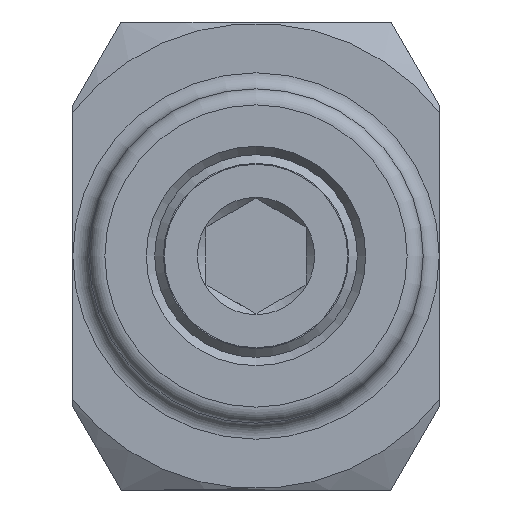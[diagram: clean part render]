
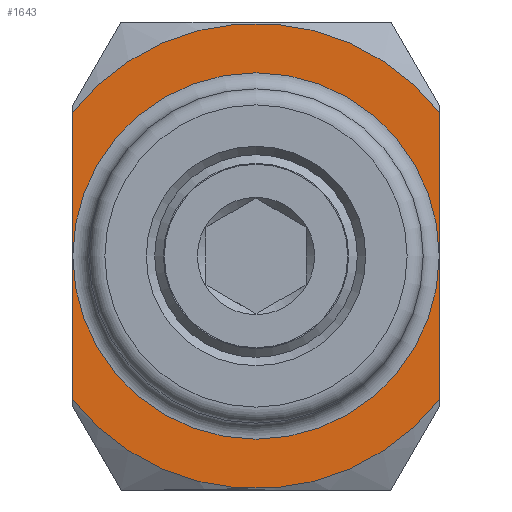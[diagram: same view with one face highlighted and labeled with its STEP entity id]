
A CAD part, front view. The second image highlights one B-rep face of the part: STEP entity #1643.
In plain terms, the highlighted planar face has unit normal (0, -1, 0).
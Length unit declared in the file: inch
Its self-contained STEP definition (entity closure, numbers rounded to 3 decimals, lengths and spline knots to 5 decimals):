
#83=PLANE('',#1837);
#127=FACE_BOUND('',#301,.T.);
#202=FACE_OUTER_BOUND('',#300,.T.);
#300=EDGE_LOOP('',(#1225,#1226,#1227,#1228));
#301=EDGE_LOOP('',(#1229,#1230));
#400=LINE('',#2716,#485);
#401=LINE('',#2720,#486);
#485=VECTOR('',#2159,0.3937);
#486=VECTOR('',#2162,0.3937);
#593=CIRCLE('',#1834,0.3425);
#595=CIRCLE('',#1836,0.3425);
#596=CIRCLE('',#1838,0.435);
#597=CIRCLE('',#1839,0.435);
#719=VERTEX_POINT('',#2708);
#720=VERTEX_POINT('',#2709);
#721=VERTEX_POINT('',#2714);
#722=VERTEX_POINT('',#2715);
#723=VERTEX_POINT('',#2717);
#724=VERTEX_POINT('',#2719);
#912=EDGE_CURVE('',#719,#720,#593,.T.);
#914=EDGE_CURVE('',#720,#719,#595,.T.);
#915=EDGE_CURVE('',#721,#722,#400,.T.);
#916=EDGE_CURVE('',#723,#722,#596,.T.);
#917=EDGE_CURVE('',#723,#724,#401,.T.);
#918=EDGE_CURVE('',#721,#724,#597,.T.);
#1225=ORIENTED_EDGE('',*,*,#915,.T.);
#1226=ORIENTED_EDGE('',*,*,#916,.F.);
#1227=ORIENTED_EDGE('',*,*,#917,.T.);
#1228=ORIENTED_EDGE('',*,*,#918,.F.);
#1229=ORIENTED_EDGE('',*,*,#912,.F.);
#1230=ORIENTED_EDGE('',*,*,#914,.F.);
#1643=ADVANCED_FACE('',(#202,#127),#83,.T.);
#1834=AXIS2_PLACEMENT_3D('',#2710,#2151,#2152);
#1836=AXIS2_PLACEMENT_3D('',#2712,#2155,#2156);
#1837=AXIS2_PLACEMENT_3D('',#2713,#2157,#2158);
#1838=AXIS2_PLACEMENT_3D('',#2718,#2160,#2161);
#1839=AXIS2_PLACEMENT_3D('',#2721,#2163,#2164);
#2151=DIRECTION('center_axis',(0.,-1.,0.));
#2152=DIRECTION('ref_axis',(0.,0.,1.));
#2155=DIRECTION('center_axis',(0.,-1.,0.));
#2156=DIRECTION('ref_axis',(0.,0.,1.));
#2157=DIRECTION('center_axis',(0.,-1.,0.));
#2158=DIRECTION('ref_axis',(0.,0.,-1.));
#2159=DIRECTION('',(0.,0.,-1.));
#2160=DIRECTION('center_axis',(0.,1.,0.));
#2161=DIRECTION('ref_axis',(0.,0.,1.));
#2162=DIRECTION('',(0.,0.,1.));
#2163=DIRECTION('center_axis',(0.,1.,0.));
#2164=DIRECTION('ref_axis',(0.,0.,1.));
#2708=CARTESIAN_POINT('',(0.,0.281,-0.3425));
#2709=CARTESIAN_POINT('',(0.,0.281,0.3425));
#2710=CARTESIAN_POINT('Origin',(0.,0.281,0.));
#2712=CARTESIAN_POINT('Origin',(0.,0.281,0.));
#2713=CARTESIAN_POINT('Origin',(0.,0.281,-0.3125));
#2714=CARTESIAN_POINT('',(-0.343,0.281,0.26754));
#2715=CARTESIAN_POINT('',(-0.343,0.281,-0.26754));
#2716=CARTESIAN_POINT('',(-0.343,0.281,-0.0158));
#2717=CARTESIAN_POINT('',(0.343,0.281,-0.26754));
#2718=CARTESIAN_POINT('Origin',(0.,0.281,0.));
#2719=CARTESIAN_POINT('',(0.343,0.281,0.26754));
#2720=CARTESIAN_POINT('',(0.343,0.281,-0.2967));
#2721=CARTESIAN_POINT('Origin',(0.,0.281,0.));
